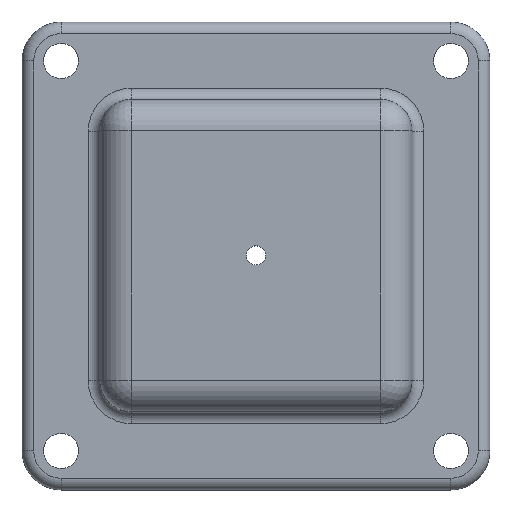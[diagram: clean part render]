
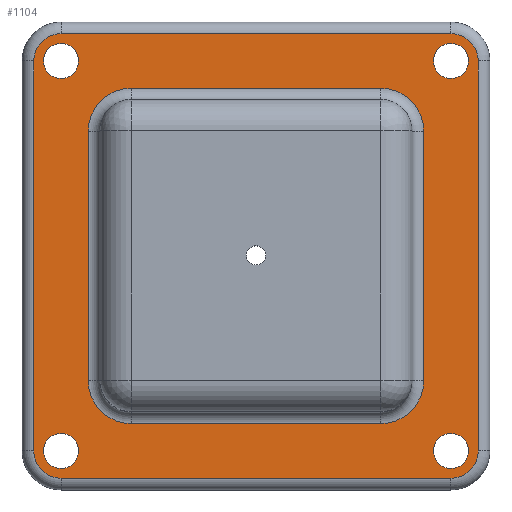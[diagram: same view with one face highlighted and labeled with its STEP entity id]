
A CAD part, top view. The second image highlights one B-rep face of the part: STEP entity #1104.
In plain terms, the highlighted planar face has unit normal (0, 0, 1).
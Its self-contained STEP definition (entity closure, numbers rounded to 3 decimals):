
#25=PLANE('',#1217);
#42=LINE('',#1769,#102);
#44=LINE('',#1781,#104);
#46=LINE('',#1793,#106);
#47=LINE('',#1801,#107);
#56=LINE('',#1830,#116);
#57=LINE('',#1834,#117);
#58=LINE('',#1838,#118);
#59=LINE('',#1841,#119);
#102=VECTOR('',#1391,64.);
#104=VECTOR('',#1405,64.);
#106=VECTOR('',#1419,64.);
#107=VECTOR('',#1430,64.);
#116=VECTOR('',#1459,100.);
#117=VECTOR('',#1462,100.);
#118=VECTOR('',#1465,100.);
#119=VECTOR('',#1468,100.);
#180=FACE_BOUND('',#368,.T.);
#181=FACE_BOUND('',#369,.T.);
#182=FACE_BOUND('',#370,.T.);
#183=FACE_BOUND('',#371,.T.);
#184=FACE_BOUND('',#372,.T.);
#277=FACE_OUTER_BOUND('',#367,.T.);
#367=EDGE_LOOP('',(#851,#852,#853,#854,#855,#856,#857,#858));
#368=EDGE_LOOP('',(#859));
#369=EDGE_LOOP('',(#860));
#370=EDGE_LOOP('',(#861));
#371=EDGE_LOOP('',(#862));
#372=EDGE_LOOP('',(#863,#864,#865,#866,#867,#868,#869,#870));
#467=CIRCLE('',#1187,11.);
#473=CIRCLE('',#1195,11.);
#477=CIRCLE('',#1201,11.);
#481=CIRCLE('',#1207,11.);
#486=CIRCLE('',#1218,7.);
#487=CIRCLE('',#1219,7.);
#488=CIRCLE('',#1220,7.);
#489=CIRCLE('',#1221,7.);
#490=CIRCLE('',#1222,4.5);
#491=CIRCLE('',#1223,4.5);
#492=CIRCLE('',#1224,4.5);
#493=CIRCLE('',#1225,4.5);
#549=VERTEX_POINT('',#1757);
#550=VERTEX_POINT('',#1759);
#552=VERTEX_POINT('',#1765);
#554=VERTEX_POINT('',#1771);
#556=VERTEX_POINT('',#1777);
#558=VERTEX_POINT('',#1783);
#560=VERTEX_POINT('',#1789);
#562=VERTEX_POINT('',#1795);
#571=VERTEX_POINT('',#1826);
#572=VERTEX_POINT('',#1827);
#573=VERTEX_POINT('',#1829);
#574=VERTEX_POINT('',#1831);
#575=VERTEX_POINT('',#1833);
#576=VERTEX_POINT('',#1835);
#577=VERTEX_POINT('',#1837);
#578=VERTEX_POINT('',#1839);
#579=VERTEX_POINT('',#1842);
#580=VERTEX_POINT('',#1844);
#581=VERTEX_POINT('',#1846);
#582=VERTEX_POINT('',#1848);
#647=EDGE_CURVE('',#549,#550,#467,.T.);
#652=EDGE_CURVE('',#550,#552,#42,.T.);
#655=EDGE_CURVE('',#552,#554,#473,.T.);
#658=EDGE_CURVE('',#554,#556,#44,.T.);
#661=EDGE_CURVE('',#556,#558,#477,.T.);
#664=EDGE_CURVE('',#558,#560,#46,.T.);
#667=EDGE_CURVE('',#560,#562,#481,.T.);
#668=EDGE_CURVE('',#562,#549,#47,.T.);
#681=EDGE_CURVE('',#571,#572,#486,.T.);
#682=EDGE_CURVE('',#573,#571,#56,.T.);
#683=EDGE_CURVE('',#574,#573,#487,.T.);
#684=EDGE_CURVE('',#575,#574,#57,.T.);
#685=EDGE_CURVE('',#576,#575,#488,.T.);
#686=EDGE_CURVE('',#577,#576,#58,.T.);
#687=EDGE_CURVE('',#578,#577,#489,.T.);
#688=EDGE_CURVE('',#572,#578,#59,.T.);
#689=EDGE_CURVE('',#579,#579,#490,.T.);
#690=EDGE_CURVE('',#580,#580,#491,.T.);
#691=EDGE_CURVE('',#581,#581,#492,.T.);
#692=EDGE_CURVE('',#582,#582,#493,.T.);
#851=ORIENTED_EDGE('',*,*,#681,.F.);
#852=ORIENTED_EDGE('',*,*,#682,.F.);
#853=ORIENTED_EDGE('',*,*,#683,.F.);
#854=ORIENTED_EDGE('',*,*,#684,.F.);
#855=ORIENTED_EDGE('',*,*,#685,.F.);
#856=ORIENTED_EDGE('',*,*,#686,.F.);
#857=ORIENTED_EDGE('',*,*,#687,.F.);
#858=ORIENTED_EDGE('',*,*,#688,.F.);
#859=ORIENTED_EDGE('',*,*,#689,.T.);
#860=ORIENTED_EDGE('',*,*,#690,.T.);
#861=ORIENTED_EDGE('',*,*,#691,.T.);
#862=ORIENTED_EDGE('',*,*,#692,.T.);
#863=ORIENTED_EDGE('',*,*,#647,.F.);
#864=ORIENTED_EDGE('',*,*,#668,.F.);
#865=ORIENTED_EDGE('',*,*,#667,.F.);
#866=ORIENTED_EDGE('',*,*,#664,.F.);
#867=ORIENTED_EDGE('',*,*,#661,.F.);
#868=ORIENTED_EDGE('',*,*,#658,.F.);
#869=ORIENTED_EDGE('',*,*,#655,.F.);
#870=ORIENTED_EDGE('',*,*,#652,.F.);
#1104=ADVANCED_FACE('',(#277,#180,#181,#182,#183,#184),#25,.T.);
#1187=AXIS2_PLACEMENT_3D('',#1760,#1380,#1381);
#1195=AXIS2_PLACEMENT_3D('',#1775,#1398,#1399);
#1201=AXIS2_PLACEMENT_3D('',#1787,#1412,#1413);
#1207=AXIS2_PLACEMENT_3D('',#1799,#1426,#1427);
#1217=AXIS2_PLACEMENT_3D('',#1825,#1455,#1456);
#1218=AXIS2_PLACEMENT_3D('',#1828,#1457,#1458);
#1219=AXIS2_PLACEMENT_3D('',#1832,#1460,#1461);
#1220=AXIS2_PLACEMENT_3D('',#1836,#1463,#1464);
#1221=AXIS2_PLACEMENT_3D('',#1840,#1466,#1467);
#1222=AXIS2_PLACEMENT_3D('',#1843,#1469,#1470);
#1223=AXIS2_PLACEMENT_3D('',#1845,#1471,#1472);
#1224=AXIS2_PLACEMENT_3D('',#1847,#1473,#1474);
#1225=AXIS2_PLACEMENT_3D('',#1849,#1475,#1476);
#1380=DIRECTION('center_axis',(0.,0.,1.));
#1381=DIRECTION('ref_axis',(0.707,-0.707,0.));
#1391=DIRECTION('',(0.,1.,0.));
#1398=DIRECTION('center_axis',(0.,0.,1.));
#1399=DIRECTION('ref_axis',(0.707,0.707,0.));
#1405=DIRECTION('',(-1.,0.,0.));
#1412=DIRECTION('center_axis',(0.,0.,1.));
#1413=DIRECTION('ref_axis',(-0.707,0.707,0.));
#1419=DIRECTION('',(0.,-1.,0.));
#1426=DIRECTION('center_axis',(0.,0.,1.));
#1427=DIRECTION('ref_axis',(-0.707,-0.707,0.));
#1430=DIRECTION('',(1.,0.,0.));
#1455=DIRECTION('center_axis',(0.,0.,1.));
#1456=DIRECTION('ref_axis',(1.,0.,0.));
#1457=DIRECTION('center_axis',(0.,0.,-1.));
#1458=DIRECTION('ref_axis',(0.707,0.707,0.));
#1459=DIRECTION('',(1.,0.,0.));
#1460=DIRECTION('center_axis',(0.,0.,-1.));
#1461=DIRECTION('ref_axis',(-0.707,0.707,0.));
#1462=DIRECTION('',(0.,1.,0.));
#1463=DIRECTION('center_axis',(0.,0.,-1.));
#1464=DIRECTION('ref_axis',(-0.707,-0.707,0.));
#1465=DIRECTION('',(-1.,0.,0.));
#1466=DIRECTION('center_axis',(0.,0.,-1.));
#1467=DIRECTION('ref_axis',(0.707,-0.707,0.));
#1468=DIRECTION('',(0.,-1.,0.));
#1469=DIRECTION('center_axis',(0.,0.,-1.));
#1470=DIRECTION('ref_axis',(-1.,0.,0.));
#1471=DIRECTION('center_axis',(0.,0.,-1.));
#1472=DIRECTION('ref_axis',(-1.,0.,0.));
#1473=DIRECTION('center_axis',(0.,0.,-1.));
#1474=DIRECTION('ref_axis',(-1.,0.,0.));
#1475=DIRECTION('center_axis',(0.,0.,-1.));
#1476=DIRECTION('ref_axis',(-1.,0.,0.));
#1757=CARTESIAN_POINT('',(32.,-43.,10.));
#1759=CARTESIAN_POINT('',(43.,-32.,10.));
#1760=CARTESIAN_POINT('Origin',(32.,-32.,10.));
#1765=CARTESIAN_POINT('',(43.,32.,10.));
#1769=CARTESIAN_POINT('',(43.,-20.,10.));
#1771=CARTESIAN_POINT('',(32.,43.,10.));
#1775=CARTESIAN_POINT('Origin',(32.,32.,10.));
#1777=CARTESIAN_POINT('',(-32.,43.,10.));
#1781=CARTESIAN_POINT('',(20.,43.,10.));
#1783=CARTESIAN_POINT('',(-43.,32.,10.));
#1787=CARTESIAN_POINT('Origin',(-32.,32.,10.));
#1789=CARTESIAN_POINT('',(-43.,-32.,10.));
#1793=CARTESIAN_POINT('',(-43.,20.,10.));
#1795=CARTESIAN_POINT('',(-32.,-43.,10.));
#1799=CARTESIAN_POINT('Origin',(-32.,-32.,10.));
#1801=CARTESIAN_POINT('',(-20.,-43.,10.));
#1825=CARTESIAN_POINT('Origin',(0.,0.,
10.));
#1826=CARTESIAN_POINT('',(50.,57.,10.));
#1827=CARTESIAN_POINT('',(57.,50.,10.));
#1828=CARTESIAN_POINT('Origin',(50.,50.,10.));
#1829=CARTESIAN_POINT('',(-50.,57.,10.));
#1830=CARTESIAN_POINT('',(30.,57.,10.));
#1831=CARTESIAN_POINT('',(-57.,50.,10.));
#1832=CARTESIAN_POINT('Origin',(-50.,50.,10.));
#1833=CARTESIAN_POINT('',(-57.,-50.,10.));
#1834=CARTESIAN_POINT('',(-57.,30.,10.));
#1835=CARTESIAN_POINT('',(-50.,-57.,10.));
#1836=CARTESIAN_POINT('Origin',(-50.,-50.,10.));
#1837=CARTESIAN_POINT('',(50.,-57.,10.));
#1838=CARTESIAN_POINT('',(-30.,-57.,10.));
#1839=CARTESIAN_POINT('',(57.,-50.,10.));
#1840=CARTESIAN_POINT('Origin',(50.,-50.,10.));
#1841=CARTESIAN_POINT('',(57.,-30.,10.));
#1842=CARTESIAN_POINT('',(54.5,50.,10.));
#1843=CARTESIAN_POINT('Origin',(50.,50.,10.));
#1844=CARTESIAN_POINT('',(-45.5,-50.,10.));
#1845=CARTESIAN_POINT('Origin',(-50.,-50.,10.));
#1846=CARTESIAN_POINT('',(-45.5,50.,10.));
#1847=CARTESIAN_POINT('Origin',(-50.,50.,10.));
#1848=CARTESIAN_POINT('',(54.5,-50.,10.));
#1849=CARTESIAN_POINT('Origin',(50.,-50.,10.));
